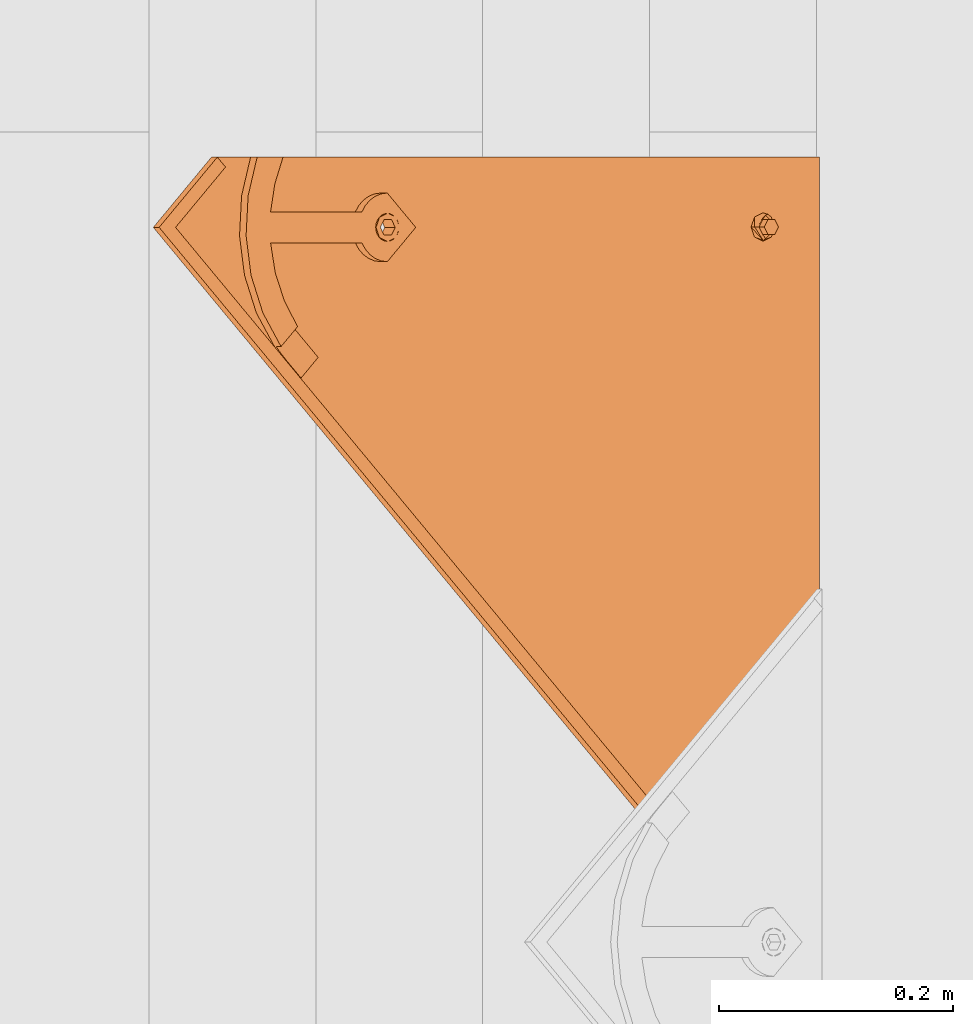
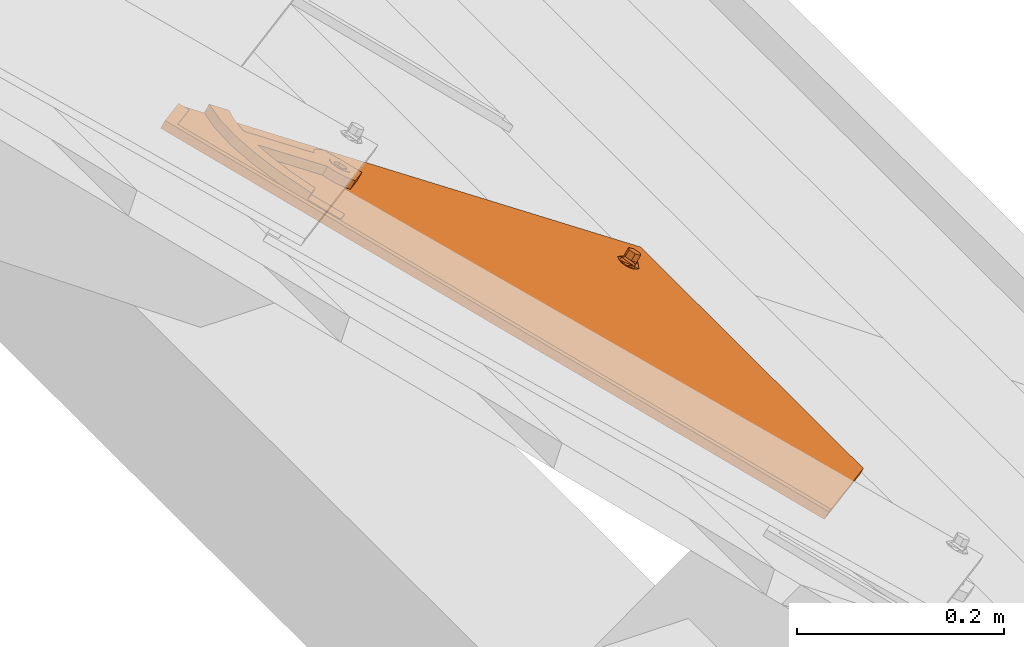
# One storey, part 133 of 151: 1 proxy.
"""IFC2X3 building model written with IfcOpenShell, lengths in millimetres."""

from ifc_helpers import new_model, entity, si_unit, converted_unit, derived_unit, direction, frame, origin, place, context, subcontext, project, spatial, faceted_brep, source, transform, mapped, material, material_list, type_object, type_shapes, element, save


model = new_model("IFC2X3")

# Units and contexts
model_context = context("Model", 3, precision=0.01, world=origin(), true_north=direction((6.12303176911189e-17, 1.0)))
body_context = subcontext(model_context, "Body", "Model", "MODEL_VIEW")
ifc_project = project(units=[si_unit("LENGTHUNIT", "METRE", prefix="MILLI"), si_unit("AREAUNIT", "SQUARE_METRE"), si_unit("VOLUMEUNIT", "CUBIC_METRE"), converted_unit("PLANEANGLEUNIT", "DEGREE", entity("IfcRatioMeasure", 0.0174532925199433), si_unit("PLANEANGLEUNIT", "RADIAN"), dimensions=[0, 0, 0, 0, 0, 0, 0]), si_unit("MASSUNIT", "GRAM", prefix="KILO"), derived_unit("MASSDENSITYUNIT", [(si_unit("MASSUNIT", "GRAM", prefix="KILO"), 1), (si_unit("LENGTHUNIT", "METRE"), -3)]), si_unit("TIMEUNIT", "SECOND"), si_unit("FREQUENCYUNIT", "HERTZ"), si_unit("THERMODYNAMICTEMPERATUREUNIT", "DEGREE_CELSIUS"), derived_unit("THERMALTRANSMITTANCEUNIT", [(si_unit("MASSUNIT", "GRAM", prefix="KILO"), 1), (si_unit("THERMODYNAMICTEMPERATUREUNIT", "KELVIN"), -1), (si_unit("TIMEUNIT", "SECOND"), -3)]), derived_unit("VOLUMETRICFLOWRATEUNIT", [(si_unit("LENGTHUNIT", "METRE"), 3), (si_unit("TIMEUNIT", "SECOND"), -1)]), si_unit("ELECTRICCURRENTUNIT", "AMPERE"), si_unit("ELECTRICVOLTAGEUNIT", "VOLT"), si_unit("POWERUNIT", "WATT"), si_unit("FORCEUNIT", "NEWTON", prefix="KILO"), si_unit("ILLUMINANCEUNIT", "LUX"), si_unit("LUMINOUSFLUXUNIT", "LUMEN"), si_unit("LUMINOUSINTENSITYUNIT", "CANDELA"), derived_unit("USERDEFINED", [(si_unit("MASSUNIT", "GRAM", prefix="KILO"), -1), (si_unit("LENGTHUNIT", "METRE"), -2), (si_unit("TIMEUNIT", "SECOND"), 3), (si_unit("LUMINOUSFLUXUNIT", "LUMEN"), 1)]), derived_unit("LINEARVELOCITYUNIT", [(si_unit("LENGTHUNIT", "METRE"), 1), (si_unit("TIMEUNIT", "SECOND"), -1)]), si_unit("PRESSUREUNIT", "PASCAL"), derived_unit("USERDEFINED", [(si_unit("LENGTHUNIT", "METRE"), -2), (si_unit("MASSUNIT", "GRAM", prefix="KILO"), 1), (si_unit("TIMEUNIT", "SECOND"), -2)])], contexts=[model_context])

# Site, building, storey
site_placement = place(None, origin())
site = spatial("IfcSite", under=ifc_project, at=site_placement, Name="Default", CompositionType="ELEMENT")
building_placement = place(site_placement, origin())
building = spatial("IfcBuilding", under=site, at=building_placement, CompositionType="ELEMENT")
storey_placement = place(building_placement, origin())
storey = spatial("IfcBuildingStorey", under=building, at=storey_placement, Name="Level 1", CompositionType="ELEMENT", Elevation=0.0)

# Proxy
ifc_material_1 = material(Name="Rubber - Sunstyle - Black")
ifc_material_2 = material(Name="Glass - Sunstyle - Tainted Black")
ifc_material_list_1 = material_list([ifc_material_1, ifc_material_2])
ifc_material_list_2 = material_list([ifc_material_1, ifc_material_2])
building_element_proxy_type = type_object("IfcBuildingElementProxyType", Name="Corner Bottom Big Right - Black", PredefinedType="NOTDEFINED", material=ifc_material_list_2)
shared_shape = source(origin(), body_context, "Body", "Brep", [
    faceted_brep([(0.270009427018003, -2.025866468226, -4.01619789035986), (-5.50419340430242, -5.35913660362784, -3.96037390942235), (-5.50419340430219, -4.99082751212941, 18.0314954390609), (0.270009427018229, -1.65755737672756, 17.9756714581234), (-5.50419340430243, -12.0256768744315, -3.84872594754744), (-5.5041934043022, -11.6573677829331, 18.1431434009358), (0.270009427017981, -15.3589470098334, -3.79290196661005), (0.270009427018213, -14.990637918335, 18.1989673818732), (6.04421225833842, -12.0256768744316, -3.84872594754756), (6.04421225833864, -11.6573677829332, 18.1431434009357), (6.04421225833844, -5.35913660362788, -3.96037390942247), (6.04421225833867, -4.99082751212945, 18.0314954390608), (-8.3336947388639, -16.9265954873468, 18.2313898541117), (0.27000942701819, -20.4898667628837, 18.2910657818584), (-11.8974656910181, -8.32409764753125, 18.0873194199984), (-8.33369473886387, 0.278400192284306, 17.9432489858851), (0.270009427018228, 3.84167146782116, 17.8835730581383), (8.87371359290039, 0.278400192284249, 17.9432489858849), (12.4374845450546, -8.32409764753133, 18.0873194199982), (8.87371359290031, -16.9265954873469, 18.2313898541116), (-11.1602134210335, -6.95050198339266, 20.4858706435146), (-9.50050407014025, -8.25322861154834, 22.3189355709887), (0.270009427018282, -0.940007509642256, 22.9603444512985), (0.27000942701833, 0.300490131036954, 22.3799978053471), (0.270009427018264, 2.4580409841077, 21.3706227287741), (-6.05323627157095, -4.59022324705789, 23.0214764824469), (-6.05323627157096, -11.8906547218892, 23.1437405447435), (0.270009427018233, -18.990246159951, 21.7298281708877), (0.270009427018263, -15.5408704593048, 23.2048725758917), (11.2551842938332, -12.0411541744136, 20.3827540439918), (10.3938597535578, -8.25726753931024, 22.077768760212), (6.59325512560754, -4.59022324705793, 23.0214764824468), (6.5932551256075, -11.8906547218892, 23.1437405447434), (-6.05323627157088, -11.7566262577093, 31.1466287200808), (0.270009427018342, -15.4068419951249, 31.207760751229), (0.270009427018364, -8.10641052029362, 31.0854966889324), (-6.05323627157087, -4.456194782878, 31.0243646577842), (6.59325512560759, -11.7566262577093, 31.1466287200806), (6.59325512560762, -4.45619478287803, 31.024364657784), (0.270009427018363, -0.805979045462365, 30.9632326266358), (0.270009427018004, -8.69240673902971, -3.90454992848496)], [[[0, 1, 2, 3]], [[1, 4, 5, 2]], [[4, 6, 7, 5]], [[6, 8, 9, 7]], [[8, 10, 11, 9]], [[10, 0, 3, 11]], [[12, 7, 13]], [[7, 12, 5]], [[14, 5, 12]], [[5, 14, 2]], [[15, 2, 14]], [[3, 2, 15]], [[15, 16, 3]], [[16, 17, 3]], [[11, 3, 17]], [[11, 17, 18]], [[9, 11, 18]], [[18, 19, 9]], [[7, 9, 19]], [[19, 13, 7]], [[15, 20, 16]], [[21, 22, 23, 24]], [[22, 21, 25]], [[20, 14, 12]], [[15, 14, 20]], [[25, 21, 26]], [[20, 24, 16]], [[12, 13, 27]], [[12, 27, 20]], [[21, 28, 26]], [[21, 27, 28]], [[20, 21, 24]], [[20, 27, 21]], [[19, 29, 13]], [[30, 23, 31]], [[30, 28, 27]], [[24, 23, 30]], [[29, 27, 13]], [[19, 18, 29]], [[29, 30, 27]], [[29, 17, 24]], [[24, 17, 16]], [[31, 32, 30]], [[23, 22, 31]], [[28, 30, 32]], [[29, 24, 30]], [[29, 18, 17]], [[33, 34, 35]], [[35, 36, 33]], [[34, 37, 35]], [[38, 35, 37]], [[35, 38, 39]], [[35, 39, 36]], [[40, 6, 4]], [[4, 1, 40]], [[1, 0, 40]], [[40, 8, 6]], [[0, 10, 40]], [[8, 40, 10]], [[22, 25, 36, 39]], [[25, 26, 33, 36]], [[26, 28, 34, 33]], [[28, 32, 37, 34]], [[32, 31, 38, 37]], [[31, 22, 39, 38]]]),
    faceted_brep([(-518.247351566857, 79.9143812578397, 14.9652572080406), (-518.247351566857, 79.9394990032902, 16.4650468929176), (-526.732038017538, 88.4241854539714, 16.3229495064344), (-526.732038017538, 88.399067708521, 14.8231598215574), (-0.00032251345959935, 614.98308737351, 6.00418773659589), (60.1037538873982, 554.895864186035, 7.01049921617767), (51.6190674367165, 546.411177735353, 7.15259660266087), (-0.000322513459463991, 598.016093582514, 6.28834266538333), (-0.000322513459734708, 615.00820511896, 7.50397742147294), (-0.000322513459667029, 598.041211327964, 7.78813235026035), (51.6190674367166, 546.436295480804, 8.65238628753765), (60.1037538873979, 554.920981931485, 8.51028890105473)], [[[0, 1, 2, 3]], [[0, 3, 4, 5, 6, 7]], [[3, 2, 8, 4]], [[2, 1, 9, 10, 11, 8]], [[1, 0, 7, 9]], [[6, 5, 11, 10]], [[4, 8, 11, 5]], [[9, 7, 6, 10]]]),
    faceted_brep([(0.0, 372.774440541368, 20.3195200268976), (0.0, 377.273809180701, 20.2441667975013), (-8.60370416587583, 376.337711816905, 20.2598440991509), (8.60370416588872, 376.337711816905, 20.2598440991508), (6.64022859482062, 381.107009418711, 20.1799702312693), (12.1674751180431, 384.940209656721, 20.1157736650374), (6.64022859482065, 388.773409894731, 20.0515770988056), (8.6037041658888, 393.542707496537, 19.9717032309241), (0.0, 392.606610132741, 19.9873805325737), (0.0, 397.105978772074, 19.9120273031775), (-8.60370416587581, 393.542707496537, 19.9717032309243), (-6.64022859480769, 388.773409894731, 20.0515770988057), (-12.1674751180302, 384.940209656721, 20.1157736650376), (-6.6402285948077, 381.107009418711, 20.1799702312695), (-6.6402282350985, 388.505487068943, 4.05382046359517), (0.0, 392.338687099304, 3.98962390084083), (-6.64022823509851, 380.839087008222, 4.18221358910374), (0.0, 377.005886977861, 4.24641015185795), (6.64022823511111, 380.839087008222, 4.1822135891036), (6.64022823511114, 388.505487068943, 4.05382046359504), (-8.603704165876, 376.069789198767, 4.26208746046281), (0.0, 372.50651792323, 4.32176338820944), (-12.1674751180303, 384.672287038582, 4.11801702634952), (-8.60370416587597, 393.274784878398, 3.97394659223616), (0.0, 396.838056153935, 3.91427066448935), (8.60370416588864, 393.274784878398, 3.97394659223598), (12.1674751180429, 384.672287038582, 4.11801702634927), (8.60370416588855, 376.069789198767, 4.26208746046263)], [[[0, 1, 2]], [[1, 0, 3]], [[3, 4, 1]], [[4, 3, 5]], [[6, 4, 5]], [[5, 7, 6]], [[7, 8, 6]], [[8, 7, 9]], [[8, 9, 10]], [[10, 11, 8]], [[12, 11, 10]], [[2, 13, 12]], [[12, 13, 11]], [[13, 2, 1]], [[8, 11, 14, 15]], [[11, 13, 16, 14]], [[13, 1, 17, 16]], [[1, 4, 18, 17]], [[4, 6, 19, 18]], [[6, 8, 15, 19]], [[20, 17, 21]], [[17, 20, 16]], [[22, 16, 20]], [[14, 16, 22]], [[23, 14, 22]], [[15, 14, 23]], [[23, 24, 15]], [[24, 25, 15]], [[19, 15, 25]], [[19, 25, 26]], [[26, 18, 19]], [[26, 27, 18]], [[17, 18, 27]], [[27, 21, 17]], [[24, 23, 10, 9]], [[10, 23, 22, 12]], [[20, 21, 0, 2]], [[20, 2, 12, 22]], [[21, 27, 3, 0]], [[3, 27, 26, 5]], [[25, 24, 9, 7]], [[25, 7, 5, 26]]]),
    faceted_brep([(-10.3923048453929, 390.78484910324, 9.75895037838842), (-8.48528137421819, 393.269782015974, 9.7173339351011), (-0.00032251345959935, 614.983087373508, 6.0041877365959), (-11.5911099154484, 387.891083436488, 9.8074137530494), (-6.0, 395.176538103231, 9.68540051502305), (-3.10582854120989, 396.37517508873, 9.6653263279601), (60.1037538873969, 554.895864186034, 7.01049921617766), (0.0, 396.784007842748, 9.65847939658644), (3.1058285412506, 396.37517508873, 9.6653263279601), (6.0, 395.176538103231, 9.68540051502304), (8.48528137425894, 393.269782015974, 9.7173339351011), (10.3923048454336, 390.784849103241, 9.75895037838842), (11.5911099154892, 387.891083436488, 9.8074137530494), (12.0, 384.785690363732, 9.8594213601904), (11.5911099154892, 381.680297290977, 9.9114289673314), (60.103753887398, -67.933460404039, 17.4413406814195), (10.3923048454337, 378.786531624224, 9.95989234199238), (6.58173564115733, -3.94243384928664, 16.369650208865), (8.48528137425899, 376.301598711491, 10.0015087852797), (5.31038666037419, -2.28581190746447, 16.3419059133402), (6.0, 374.394842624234, 10.0334422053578), (3.65353241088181, -1.01464118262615, 16.3206169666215), (3.10582854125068, 373.196205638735, 10.0535163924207), (1.72408477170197, -0.215549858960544, 16.3072341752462), (0.0, 372.787372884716, 10.0603633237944), (-0.346467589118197, 0.0570053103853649, 16.3026695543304), (-2.41701994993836, -0.215549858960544, 16.3072341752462), (-3.10582854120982, 373.196205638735, 10.0535163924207), (-4.34646758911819, -1.01464118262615, 16.3206169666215), (-6.0, 374.394842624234, 10.0334422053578), (-6.00332183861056, -2.28581190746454, 16.3419059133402), (-8.48528137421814, 376.301598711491, 10.0015087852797), (-370.355661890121, -67.9334604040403, 17.4413406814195), (-10.3923048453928, 378.786531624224, 9.95989234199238), (-526.732038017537, 88.3990677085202, 14.8231598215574), (-11.5911099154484, 381.680297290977, 9.9114289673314), (-12.0, 384.785690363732, 9.8594213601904), (-7.27467081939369, -3.94243384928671, 16.369650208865), (-8.07387419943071, -5.87161096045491, 16.4019591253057), (-8.34646758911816, -7.94187300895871, 16.4366308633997), (-8.0738741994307, -10.0121350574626, 16.4713026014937), (-7.27467081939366, -11.9413121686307, 16.5036115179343), (-6.00332183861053, -13.5979341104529, 16.5313558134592), (-4.34646758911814, -14.8691048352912, 16.5526447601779), (-2.41701994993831, -15.6681961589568, 16.5660275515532), (7.38093902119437, -5.87161096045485, 16.4019591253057), (7.65353241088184, -7.94187300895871, 16.4366308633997), (7.38093902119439, -10.0121350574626, 16.4713026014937), (6.58173564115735, -11.9413121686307, 16.5036115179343), (5.31038666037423, -13.5979341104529, 16.5313558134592), (3.65353241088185, -14.8691048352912, 16.5526447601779), (1.72408477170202, -15.6681961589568, 16.5660275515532), (-0.346467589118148, -15.9407513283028, 16.570592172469), (-370.355661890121, -68.0590491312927, 9.94239225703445), (-8.0738741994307, -10.1377237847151, 8.97235417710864), (-7.27467081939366, -12.0669008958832, 9.00466309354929), (-8.34646758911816, -8.06746173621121, 8.93768243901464), (-6.00332183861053, -13.7235228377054, 9.03240738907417), (-4.34646758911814, -14.9946935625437, 9.05369633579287), (60.103753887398, -68.0590491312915, 9.94239225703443), (-8.07387419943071, -5.99719968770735, 8.90301070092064), (-7.27467081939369, -4.06802257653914, 8.87070178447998), (-6.00332183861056, -2.41140063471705, 8.8429574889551), (-8.48528137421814, 376.176009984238, 2.50256036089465), (-10.3923048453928, 378.660942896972, 2.46094391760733), (-526.732038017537, 88.2734789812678, 7.32421139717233), (-11.5911099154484, 381.554708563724, 2.41248054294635), (-12.0, 384.66010163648, 2.36047293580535), (-11.5911099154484, 387.765494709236, 2.30846532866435), (-0.00032251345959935, 614.857498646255, -1.49476068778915), (-10.3923048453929, 390.659260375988, 2.26000195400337), (-8.48528137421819, 393.144193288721, 2.21838551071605), (-6.0, 395.050949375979, 2.18645209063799), (-3.10582854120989, 396.249586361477, 2.16637790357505), (60.1037538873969, 554.770275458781, -0.488449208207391), (0.0, 396.658419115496, 2.15953097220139), (3.1058285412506, 396.249586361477, 2.16637790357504), (6.0, 395.050949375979, 2.18645209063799), (8.48528137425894, 393.144193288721, 2.21838551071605), (10.3923048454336, 390.659260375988, 2.26000195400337), (11.5911099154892, 387.765494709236, 2.30846532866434), (12.0, 384.66010163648, 2.36047293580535), (11.5911099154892, 381.554708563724, 2.41248054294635), (-2.41701994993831, -15.7937848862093, 9.06707912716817), (-0.346467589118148, -16.0663400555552, 9.07164374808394), (1.72408477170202, -15.7937848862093, 9.06707912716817), (3.65353241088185, -14.9946935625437, 9.05369633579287), (5.31038666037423, -13.7235228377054, 9.03240738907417), (6.58173564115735, -12.0669008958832, 9.00466309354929), (7.38093902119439, -10.1377237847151, 8.97235417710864), (7.65353241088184, -8.06746173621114, 8.93768243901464), (7.38093902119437, -5.99719968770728, 8.90301070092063), (6.58173564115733, -4.06802257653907, 8.87070178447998), (10.3923048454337, 378.660942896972, 2.46094391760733), (-6.0, 374.269253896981, 2.5344937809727), (-4.34646758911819, -1.14022990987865, 8.8216685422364), (-3.10582854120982, 373.070616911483, 2.55456796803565), (-2.41701994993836, -0.341138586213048, 8.8082857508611), (0.0, 372.661784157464, 2.56141489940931), (-0.346467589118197, -0.0685834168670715, 8.80372112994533), (1.72408477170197, -0.341138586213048, 8.8082857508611), (3.10582854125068, 373.070616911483, 2.55456796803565), (3.65353241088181, -1.14022990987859, 8.8216685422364), (6.0, 374.269253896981, 2.5344937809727), (5.31038666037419, -2.41140063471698, 8.8429574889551), (8.48528137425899, 376.176009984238, 2.50256036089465)], [[[0, 1, 2]], [[3, 0, 2]], [[4, 2, 1]], [[2, 4, 5]], [[6, 2, 5]], [[7, 6, 5]], [[7, 8, 6]], [[8, 9, 6]], [[10, 6, 9]], [[6, 10, 11]], [[6, 11, 12]], [[12, 13, 6]], [[13, 14, 6]], [[6, 14, 15]], [[14, 16, 15]], [[17, 15, 16]], [[18, 17, 16]], [[17, 18, 19]], [[18, 20, 19]], [[21, 19, 20]], [[20, 22, 21]], [[23, 21, 22]], [[24, 23, 22]], [[23, 24, 25]], [[26, 25, 24]], [[24, 27, 26]], [[26, 27, 28]], [[29, 28, 27]], [[28, 29, 30]], [[29, 31, 30]], [[32, 30, 31]], [[33, 32, 31]], [[33, 34, 32]], [[33, 35, 34]], [[35, 36, 34]], [[36, 3, 34]], [[3, 2, 34]], [[30, 32, 37]], [[37, 32, 38]], [[32, 39, 38]], [[39, 32, 40]], [[40, 32, 41]], [[42, 41, 32]], [[42, 32, 43]], [[43, 32, 15]], [[15, 44, 43]], [[17, 45, 15]], [[45, 46, 15]], [[47, 15, 46]], [[47, 48, 15]], [[49, 15, 48]], [[15, 49, 50]], [[50, 51, 15]], [[51, 52, 15]], [[52, 44, 15]], [[53, 54, 55]], [[54, 53, 56]], [[53, 55, 57]], [[57, 58, 53]], [[53, 58, 59]], [[60, 56, 53]], [[61, 60, 53]], [[61, 53, 62]], [[63, 62, 53]], [[64, 63, 53]], [[65, 64, 53]], [[65, 66, 64]], [[66, 65, 67]], [[67, 65, 68]], [[65, 69, 68]], [[70, 68, 69]], [[71, 70, 69]], [[72, 71, 69]], [[69, 73, 72]], [[74, 73, 69]], [[75, 73, 74]], [[76, 75, 74]], [[77, 76, 74]], [[74, 78, 77]], [[78, 74, 79]], [[80, 79, 74]], [[80, 74, 81]], [[82, 81, 74]], [[82, 74, 59]], [[59, 58, 83]], [[84, 59, 83]], [[84, 85, 59]], [[85, 86, 59]], [[87, 59, 86]], [[59, 87, 88]], [[59, 88, 89]], [[89, 90, 59]], [[90, 91, 59]], [[91, 92, 59]], [[92, 93, 59]], [[93, 82, 59]], [[94, 62, 63]], [[94, 95, 62]], [[96, 95, 94]], [[97, 95, 96]], [[96, 98, 97]], [[99, 97, 98]], [[99, 98, 100]], [[101, 100, 98]], [[102, 100, 101]], [[103, 102, 101]], [[104, 102, 103]], [[103, 105, 104]], [[105, 92, 104]], [[105, 93, 92]], [[36, 67, 68, 3]], [[3, 68, 70, 0]], [[4, 1, 71, 72]], [[70, 71, 1, 0]], [[5, 4, 72, 73]], [[75, 7, 5, 73]], [[8, 76, 77, 9]], [[9, 77, 78, 10]], [[12, 11, 79, 80]], [[78, 79, 11, 10]], [[13, 12, 80, 81]], [[8, 7, 75, 76]], [[13, 81, 82, 14]], [[14, 82, 93, 16]], [[20, 18, 105, 103]], [[93, 105, 18, 16]], [[22, 20, 103, 101]], [[98, 24, 22, 101]], [[27, 96, 94, 29]], [[29, 94, 63, 31]], [[35, 33, 64, 66]], [[63, 64, 33, 31]], [[36, 35, 66, 67]], [[27, 24, 98, 96]], [[34, 2, 69, 65]], [[32, 34, 65, 53]], [[15, 32, 53, 59]], [[6, 15, 59, 74]], [[2, 6, 74, 69]], [[39, 56, 60, 38]], [[38, 60, 61, 37]], [[28, 30, 62, 95]], [[62, 30, 37, 61]], [[26, 28, 95, 97]], [[26, 97, 99, 25]], [[25, 99, 100, 23]], [[23, 100, 102, 21]], [[17, 19, 104, 92]], [[104, 19, 21, 102]], [[45, 17, 92, 91]], [[45, 91, 90, 46]], [[46, 90, 89, 47]], [[47, 89, 88, 48]], [[50, 49, 87, 86]], [[87, 49, 48, 88]], [[51, 50, 86, 85]], [[51, 85, 84, 52]], [[52, 84, 83, 44]], [[44, 83, 58, 43]], [[41, 42, 57, 55]], [[57, 42, 43, 58]], [[40, 41, 55, 54]], [[40, 54, 56, 39]]]),
    faceted_brep([(-114.2509690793, 483.839345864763, 10.7008696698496), (-128.946713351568, 469.147722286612, 10.9469178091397), (-111.269043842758, 451.472531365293, 11.2429332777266), (-84.944396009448, 477.793488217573, 10.8021227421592), (-102.027571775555, 494.874268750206, 10.5160621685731), (-108.279973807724, 489.512620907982, 10.6058564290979), (0.0, 355.735286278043, 10.3459433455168), (0.0, 373.122276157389, 10.0547545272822), (3.10582854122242, 373.531108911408, 10.0479075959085), (-3.10582854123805, 373.531108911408, 10.0479075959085), (6.0, 374.729745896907, 10.0278334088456), (8.48528137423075, 376.636501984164, 9.99589998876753), (29.3894280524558, 385.120593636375, 9.85381256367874), (-6.0, 374.729745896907, 10.0278334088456), (-8.4852813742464, 376.636501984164, 9.99589998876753), (-29.3894280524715, 385.120593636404, 9.85381256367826), (-10.3923048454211, 379.121434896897, 9.95428354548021), (-11.5911099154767, 382.01520056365, 9.90582017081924), (-12.0, 385.120593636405, 9.85381256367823), (-28.6795527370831, 391.540108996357, 9.74630165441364), (-11.5911099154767, 388.225986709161, 9.80180495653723), (-26.5842195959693, 397.649509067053, 9.64398440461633), (-10.3923048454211, 391.119752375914, 9.75334158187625), (-23.204650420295, 403.153659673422, 9.55180357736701), (-8.48528137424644, 393.604685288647, 9.71172513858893), (-18.704106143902, 407.786665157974, 9.47421226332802), (-6.0, 395.511441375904, 9.67979171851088), (-13.3000000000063, 411.324713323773, 9.41495875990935), (-3.10582854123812, 396.710078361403, 9.65971753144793), (0.0, 397.118911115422, 9.65287060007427), (13.2999999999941, 411.324713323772, 9.41495875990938), (-13.3000000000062, 505.643535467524, 7.83535317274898), (13.2999999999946, 505.643535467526, 7.83535317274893), (-7.21723712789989, 530.953901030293, 7.41146752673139), (-41.1626974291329, 525.784666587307, 7.49803934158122), (-38.7697427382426, 500.828655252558, 7.91599043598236), (-73.2491712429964, 513.560140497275, 7.70276973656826), (-62.9243331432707, 491.42502143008, 8.07347790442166), (-84.9431983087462, 477.752822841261, 8.30245321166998), (-102.027571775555, 494.832405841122, 8.01641269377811), (-108.279973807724, 489.470757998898, 8.10620695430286), (-114.2509690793, 483.79748295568, 8.20122019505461), (-111.269043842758, 451.430668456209, 8.74328380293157), (-128.946713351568, 469.105859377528, 8.44726833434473), (27.0541674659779, 528.834391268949, 7.44696404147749), (37.2599857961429, 501.252149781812, 7.90889795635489), (60.1037538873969, 519.521858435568, 7.60292579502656), (60.1037538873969, 492.795625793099, 8.05052369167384), (3.10582854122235, 396.710078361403, 9.65971753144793), (6.0, 395.511441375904, 9.67979171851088), (18.7041061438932, 407.786665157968, 9.47421226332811), (8.48528137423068, 393.604685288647, 9.71172513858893), (23.2046504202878, 403.153659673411, 9.55180357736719), (10.3923048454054, 391.119752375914, 9.75334158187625), (26.5842195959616, 397.649509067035, 9.64398440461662), (11.591109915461, 388.225986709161, 9.80180495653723), (28.6795527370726, 391.540108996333, 9.74630165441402), (12.0, 385.120593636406, 9.85381256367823), (11.591109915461, 382.01520056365, 9.90582017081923), (10.3923048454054, 379.121434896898, 9.95428354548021), (-38.7697427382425, 500.996106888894, 17.9145883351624), (-41.1626974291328, 525.952118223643, 17.4966372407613), (-73.2491712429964, 513.727592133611, 17.7013676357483), (-62.9243331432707, 491.592473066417, 18.0720758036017), (-13.3000000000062, 505.810987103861, 17.833951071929), (-7.21723712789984, 531.121352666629, 17.4100654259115), (13.2999999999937, 505.810987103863, 17.833951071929), (-13.3000000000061, 411.49216496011, 19.4135566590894), (13.2999999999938, 411.492164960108, 19.4135566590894), (0.0, 397.286362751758, 19.6514684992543), (-3.10582854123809, 396.877529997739, 19.658315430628), (-6.0, 395.678893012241, 19.6783896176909), (-18.7041061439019, 407.954116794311, 19.4728101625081), (-8.48528137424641, 393.772136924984, 19.710323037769), (-23.2046504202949, 403.321111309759, 19.5504014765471), (-10.3923048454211, 391.28720401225, 19.7519394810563), (-26.5842195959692, 397.816960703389, 19.6425823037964), (-11.5911099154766, 388.393438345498, 19.8004028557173), (-28.6795527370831, 391.707560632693, 19.7448995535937), (-12.0, 385.288045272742, 19.8524104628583), (-29.3894280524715, 385.28804527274, 19.8524104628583), (-11.5911099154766, 382.182652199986, 19.9044180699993), (-10.3923048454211, 379.288886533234, 19.9528814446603), (-8.48528137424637, 376.803953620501, 19.9944978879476), (0.0, 355.902737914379, 20.3445412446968), (-6.0, 374.897197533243, 20.0264313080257), (-3.10582854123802, 373.698560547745, 20.0465054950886), (0.0, 373.289727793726, 20.0533524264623), (3.10582854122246, 373.698560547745, 20.0465054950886), (6.0, 374.897197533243, 20.0264313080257), (8.48528137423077, 376.803953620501, 19.9944978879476), (29.3894280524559, 385.288045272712, 19.8524104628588), (10.3923048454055, 379.288886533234, 19.9528814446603), (11.591109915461, 382.182652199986, 19.9044180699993), (12.0, 385.288045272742, 19.8524104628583), (28.6795527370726, 391.70756063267, 19.7448995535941), (11.591109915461, 388.393438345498, 19.8004028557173), (26.5842195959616, 397.816960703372, 19.6425823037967), (10.3923048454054, 391.28720401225, 19.7519394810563), (23.2046504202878, 403.321111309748, 19.5504014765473), (8.48528137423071, 393.772136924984, 19.710323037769), (18.7041061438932, 407.954116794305, 19.4728101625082), (6.0, 395.678893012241, 19.6783896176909), (3.10582854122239, 396.877529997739, 19.658315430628), (27.0541674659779, 529.001842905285, 17.4455619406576), (37.259985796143, 501.419601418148, 17.907495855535), (60.1037538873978, 519.689310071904, 17.6015236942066), (60.1037538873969, 492.963077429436, 18.0491215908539), (-84.9443960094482, 477.919076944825, 18.3010711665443), (-102.027571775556, 494.999857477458, 18.0150105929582)], [[[0, 1, 2, 3, 4, 5]], [[6, 7, 8]], [[7, 6, 9]], [[6, 8, 10]], [[10, 11, 6]], [[6, 11, 12]], [[13, 9, 6]], [[14, 13, 6]], [[14, 6, 15]], [[15, 16, 14]], [[16, 15, 17]], [[17, 15, 18]], [[19, 18, 15]], [[20, 18, 19]], [[19, 21, 20]], [[20, 21, 22]], [[23, 22, 21]], [[23, 24, 22]], [[23, 25, 24]], [[25, 26, 24]], [[26, 25, 27]], [[28, 26, 27]], [[27, 29, 28]], [[30, 29, 27]], [[30, 27, 31]], [[30, 31, 32]], [[31, 33, 32]], [[33, 31, 34]], [[35, 34, 31]], [[34, 35, 36]], [[37, 36, 35]], [[37, 38, 36]], [[36, 38, 39]], [[40, 39, 38]], [[40, 38, 41]], [[38, 42, 41]], [[42, 43, 41]], [[32, 33, 44]], [[44, 45, 32]], [[45, 44, 46]], [[46, 47, 45]], [[48, 29, 30]], [[30, 49, 48]], [[49, 30, 50]], [[50, 51, 49]], [[50, 52, 51]], [[51, 52, 53]], [[54, 53, 52]], [[54, 55, 53]], [[56, 55, 54]], [[57, 55, 56]], [[12, 57, 56]], [[58, 57, 12]], [[12, 11, 59]], [[58, 12, 59]], [[1, 0, 41, 43]], [[2, 1, 43, 42]], [[4, 39, 40, 5]], [[40, 41, 0, 5]], [[3, 2, 42, 38]], [[60, 61, 62]], [[63, 60, 62]], [[64, 61, 60]], [[61, 64, 65]], [[66, 65, 64]], [[66, 64, 67]], [[66, 67, 68]], [[68, 67, 69]], [[67, 70, 69]], [[71, 70, 67]], [[71, 67, 72]], [[72, 73, 71]], [[73, 72, 74]], [[73, 74, 75]], [[74, 76, 75]], [[75, 76, 77]], [[78, 77, 76]], [[78, 79, 77]], [[78, 80, 79]], [[79, 80, 81]], [[82, 81, 80]], [[83, 82, 80]], [[83, 80, 84]], [[85, 83, 84]], [[86, 85, 84]], [[87, 86, 84]], [[87, 84, 88]], [[89, 88, 84]], [[89, 84, 90]], [[91, 90, 84]], [[92, 90, 91]], [[91, 93, 92]], [[93, 91, 94]], [[95, 94, 91]], [[95, 96, 94]], [[95, 97, 96]], [[96, 97, 98]], [[99, 98, 97]], [[98, 99, 100]], [[100, 99, 101]], [[101, 68, 102]], [[100, 101, 102]], [[102, 68, 103]], [[103, 68, 69]], [[66, 104, 65]], [[105, 104, 66]], [[105, 106, 104]], [[106, 105, 107]], [[108, 63, 62]], [[62, 109, 108]], [[66, 68, 30, 32]], [[95, 91, 12, 56]], [[97, 95, 56, 54]], [[54, 52, 99, 97]], [[101, 99, 52, 50]], [[68, 101, 50, 30]], [[91, 84, 6, 12]], [[84, 80, 15, 6]], [[72, 67, 27, 25]], [[74, 72, 25, 23]], [[23, 21, 76, 74]], [[78, 76, 21, 19]], [[80, 78, 19, 15]], [[67, 64, 31, 27]], [[104, 106, 46, 44]], [[65, 104, 44, 33]], [[33, 34, 61, 65]], [[62, 61, 34, 36]], [[4, 109, 62, 36, 39]], [[79, 18, 20, 77]], [[77, 20, 22, 75]], [[71, 73, 24, 26]], [[22, 24, 73, 75]], [[70, 71, 26, 28]], [[29, 69, 70, 28]], [[103, 48, 49, 102]], [[102, 49, 51, 100]], [[96, 98, 53, 55]], [[51, 53, 98, 100]], [[94, 96, 55, 57]], [[103, 69, 29, 48]], [[94, 57, 58, 93]], [[93, 58, 59, 92]], [[89, 90, 11, 10]], [[59, 11, 90, 92]], [[88, 89, 10, 8]], [[7, 87, 88, 8]], [[86, 9, 13, 85]], [[85, 13, 14, 83]], [[81, 82, 16, 17]], [[14, 16, 82, 83]], [[79, 81, 17, 18]], [[86, 87, 7, 9]], [[108, 109, 4, 3]], [[32, 45, 105, 66]], [[47, 107, 105, 45]], [[3, 37, 63, 108]], [[3, 38, 37]], [[35, 31, 64, 60]], [[37, 35, 60, 63]], [[106, 107, 47, 46]]]),
])
type_shapes(building_element_proxy_type, [shared_shape])
proxy_placement = place(storey_placement, frame((4500.27316942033, -1026.23434682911, 564.643296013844), z_axis=(0.573576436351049, 0.0, 0.81915204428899), x_axis=(0.0, 1.0, 0.0)))
element("IfcBuildingElementProxy", 1, at=proxy_placement, inside=storey, type_object=building_element_proxy_type, material=ifc_material_list_1, Name="Roofing_Panels_SunStyle_Tile_Corner-Bottom-Big-Right:Corner Bottom Big Right - Black", ObjectType="Roofing_Panels_SunStyle_Tile_Corner-Bottom-Big-Right:Corner Bottom Big Right - Black", context=body_context, shape_type="MappedRepresentation", body=[
    mapped(shared_shape, transform((0.0, 0.0, 0.0), scale=1.0)),
])

save(model, "model.ifc")
